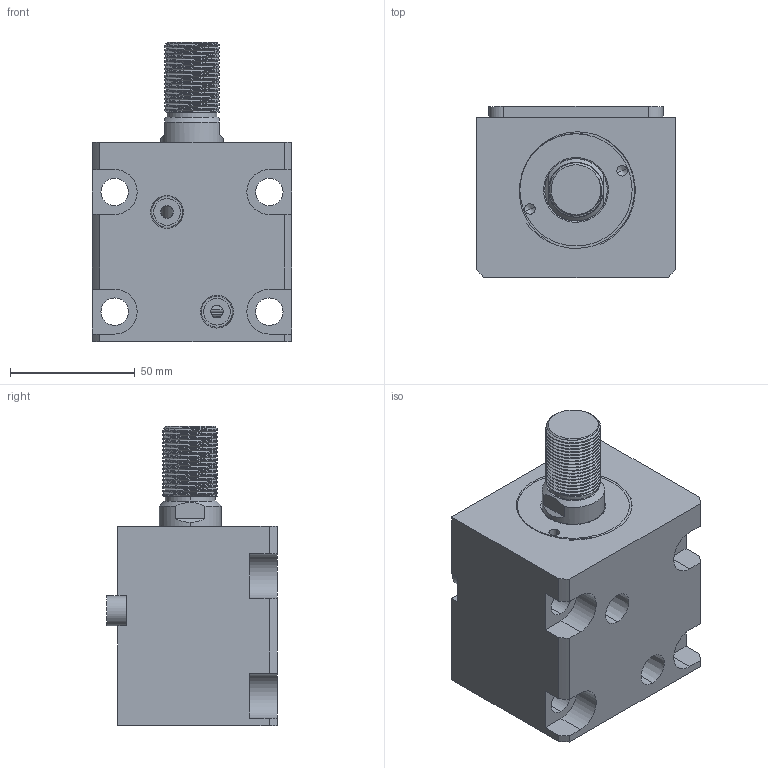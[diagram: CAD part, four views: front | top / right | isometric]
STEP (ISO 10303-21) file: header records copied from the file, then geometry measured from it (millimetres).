
FILE_DESCRIPTION (( 'STEP AP214' ), '1' );
FILE_NAME ('chtb-la40x25w_asm.STEP', '2018-06-02T06:55:37', ( 'Windows' ), ( 'Microsoft' ), 'SwSTEP 2.0', 'SolidWorks 2015', '' );
FILE_SCHEMA (( 'AUTOMOTIVE_DESIGN' ));
Length unit declared in the file: millimetre
Products named in the file (5): CHTB-SD40QG; CHTB-LA40PJ; CHTB-SD40X25WHSG; CHTB-LA40X25NBT; chtb-la40x25w_asm
Assembly tree (4 placements, depth 2):
  chtb-la40x25w_asm
    CHTB-LA40X25NBT
    CHTB-SD40X25WHSG
    CHTB-LA40PJ
    CHTB-SD40QG
Bounding box: 80 x 68.5 x 120 mm (x, y, z)
Volume: 369285.9 mm3; surface area: 79046.1 mm2
Topology: 4 solids, 5 shells, 205 faces, 559 edges, 373 vertices
Faces by surface type: cylinder 111, plane 52, bspline 16, cone 14, torus 12
Entity records: 13775 total; most frequent: CARTESIAN_POINT 8706, ORIENTED_EDGE 1106, DIRECTION 926, EDGE_CURVE 553, VERTEX_POINT 373, AXIS2_PLACEMENT_3D 363, EDGE_LOOP 234, ADVANCED_FACE 205
